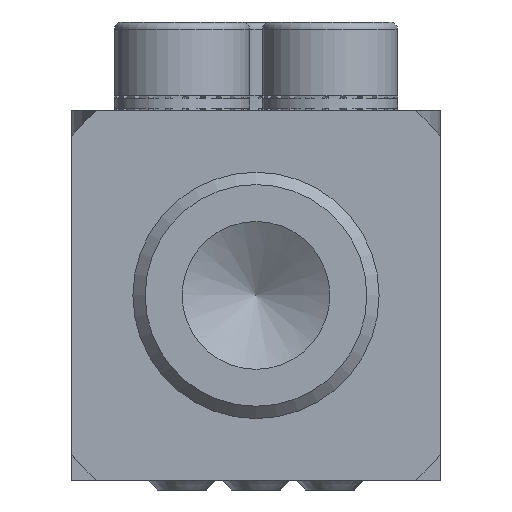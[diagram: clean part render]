
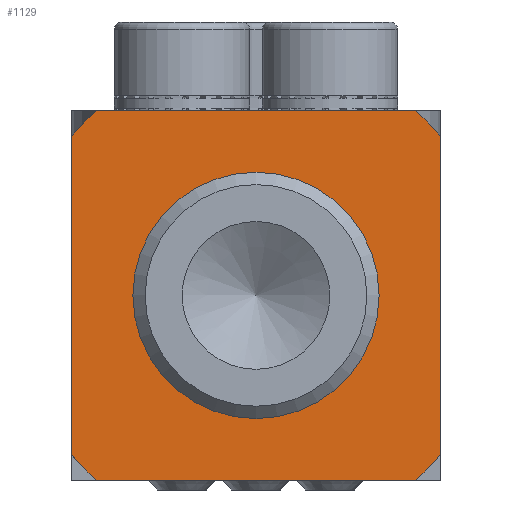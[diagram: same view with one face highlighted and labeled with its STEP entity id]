
A CAD part, left-side view. The second image highlights one B-rep face of the part: STEP entity #1129.
In plain terms, the highlighted planar face has unit normal (-1, 0, 0).
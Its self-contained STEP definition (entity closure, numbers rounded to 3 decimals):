
#1129=ADVANCED_FACE('',(#2017,#2018),#2019,.F.);
#2017=FACE_BOUND('',#2867,.T.);
#2018=FACE_OUTER_BOUND('',#2868,.T.);
#2019=PLANE('',#2869);
#2867=EDGE_LOOP('',(#5367));
#2868=EDGE_LOOP('',(#5368,#5369,#5370,#5371,#5372,#5373,#5374,#5375));
#2869=AXIS2_PLACEMENT_3D('',#5376,#5377,#5378);
#5367=ORIENTED_EDGE('',*,*,#6479,.T.);
#5368=ORIENTED_EDGE('',*,*,#6480,.F.);
#5369=ORIENTED_EDGE('',*,*,#6471,.F.);
#5370=ORIENTED_EDGE('',*,*,#6481,.F.);
#5371=ORIENTED_EDGE('',*,*,#6477,.F.);
#5372=ORIENTED_EDGE('',*,*,#6438,.F.);
#5373=ORIENTED_EDGE('',*,*,#6482,.T.);
#5374=ORIENTED_EDGE('',*,*,#6483,.F.);
#5375=ORIENTED_EDGE('',*,*,#6484,.T.);
#5376=CARTESIAN_POINT('',(0.0,-7.5,7.5));
#5377=DIRECTION('',(1.0,0.0,0.0));
#5378=DIRECTION('',(0.0,0.0,-1.0));
#6438=EDGE_CURVE('',#7949,#7950,#7951,.T.);
#6471=EDGE_CURVE('',#8002,#7998,#8004,.T.);
#6477=EDGE_CURVE('',#7950,#8007,#8014,.T.);
#6479=EDGE_CURVE('',#8016,#8016,#8017,.T.);
#6480=EDGE_CURVE('',#7998,#8018,#8019,.T.);
#6481=EDGE_CURVE('',#8007,#8002,#8020,.T.);
#6482=EDGE_CURVE('',#7949,#8021,#8022,.T.);
#6483=EDGE_CURVE('',#8023,#8021,#8024,.T.);
#6484=EDGE_CURVE('',#8023,#8018,#8025,.T.);
#7949=VERTEX_POINT('',#9969);
#7950=VERTEX_POINT('',#9970);
#7951=CIRCLE('',#9971,9.9);
#7998=VERTEX_POINT('',#10026);
#8002=VERTEX_POINT('',#10031);
#8004=LINE('',#10034,#10035);
#8007=VERTEX_POINT('',#10038);
#8014=LINE('',#10049,#10050);
#8016=VERTEX_POINT('',#10052);
#8017=CIRCLE('',#10053,5.0);
#8018=VERTEX_POINT('',#10054);
#8019=CIRCLE('',#10055,9.9);
#8020=CIRCLE('',#10056,9.9);
#8021=VERTEX_POINT('',#10057);
#8022=LINE('',#10058,#10059);
#8023=VERTEX_POINT('',#10060);
#8024=CIRCLE('',#10061,9.9);
#8025=LINE('',#10062,#10063);
#9969=CARTESIAN_POINT('',(0.0,-6.462,7.5));
#9970=CARTESIAN_POINT('',(0.0,-7.5,6.462));
#9971=AXIS2_PLACEMENT_3D('',#11283,#11284,#11285);
#10026=CARTESIAN_POINT('',(0.0,6.462,-7.5));
#10031=CARTESIAN_POINT('',(0.0,-6.462,-7.5));
#10034=CARTESIAN_POINT('',(0.0,-7.5,-7.5));
#10035=VECTOR('',#11335,1.0);
#10038=CARTESIAN_POINT('',(0.0,-7.5,-6.462));
#10049=CARTESIAN_POINT('',(0.0,-7.5,7.5));
#10050=VECTOR('',#11340,1.0);
#10052=CARTESIAN_POINT('',(0.0,0.0,-5.0));
#10053=AXIS2_PLACEMENT_3D('',#11341,#11342,#11343);
#10054=CARTESIAN_POINT('',(0.0,7.5,-6.462));
#10055=AXIS2_PLACEMENT_3D('',#11344,#11345,#11346);
#10056=AXIS2_PLACEMENT_3D('',#11347,#11348,#11349);
#10057=CARTESIAN_POINT('',(0.0,6.462,7.5));
#10058=CARTESIAN_POINT('',(0.0,-7.5,7.5));
#10059=VECTOR('',#11350,1.0);
#10060=CARTESIAN_POINT('',(0.0,7.5,6.462));
#10061=AXIS2_PLACEMENT_3D('',#11351,#11352,#11353);
#10062=CARTESIAN_POINT('',(0.0,7.5,7.5));
#10063=VECTOR('',#11354,1.0);
#11283=CARTESIAN_POINT('',(0.0,0.,0.));
#11284=DIRECTION('',(1.0,0.0,0.0));
#11285=DIRECTION('',(0.0,0.0,-1.0));
#11335=DIRECTION('',(0.0,1.0,0.0));
#11340=DIRECTION('',(0.0,0.0,-1.0));
#11341=CARTESIAN_POINT('',(0.0,0.0,0.));
#11342=DIRECTION('',(1.0,0.0,0.0));
#11343=DIRECTION('',(0.0,0.0,-1.0));
#11344=CARTESIAN_POINT('',(0.0,0.,0.));
#11345=DIRECTION('',(1.0,0.0,0.0));
#11346=DIRECTION('',(0.0,0.0,-1.0));
#11347=CARTESIAN_POINT('',(0.0,0.,0.));
#11348=DIRECTION('',(1.0,0.0,0.0));
#11349=DIRECTION('',(0.0,0.0,-1.0));
#11350=DIRECTION('',(0.0,1.0,0.0));
#11351=CARTESIAN_POINT('',(0.0,0.,0.));
#11352=DIRECTION('',(1.0,0.0,0.0));
#11353=DIRECTION('',(0.0,0.0,-1.0));
#11354=DIRECTION('',(0.0,0.0,-1.0));
